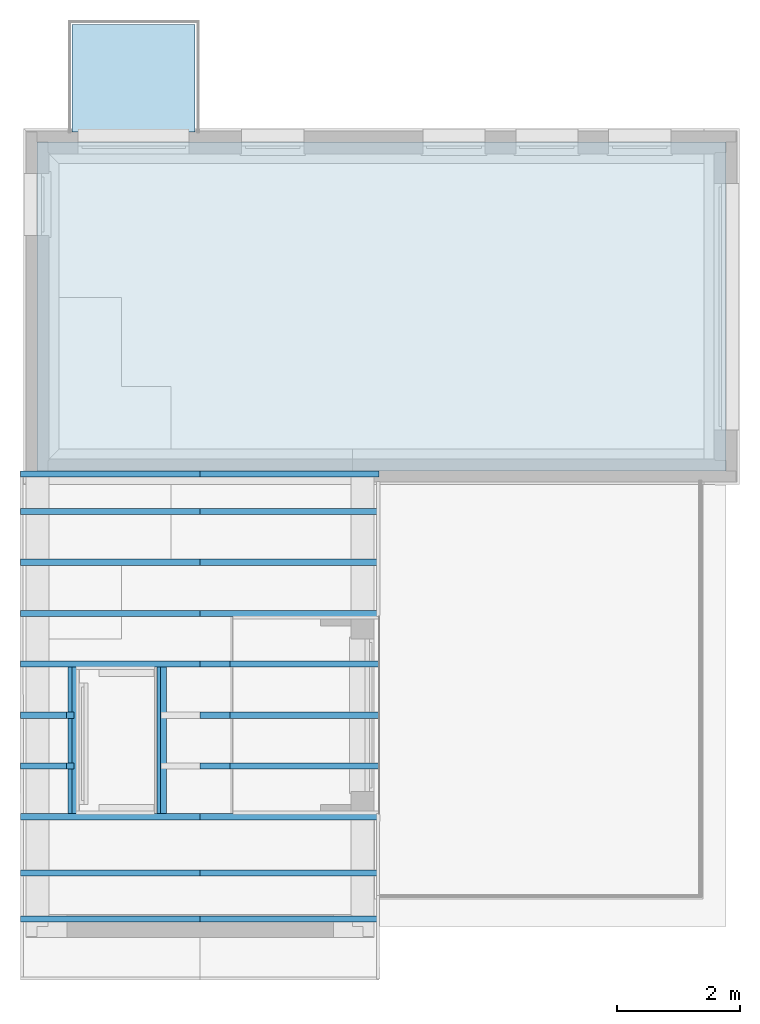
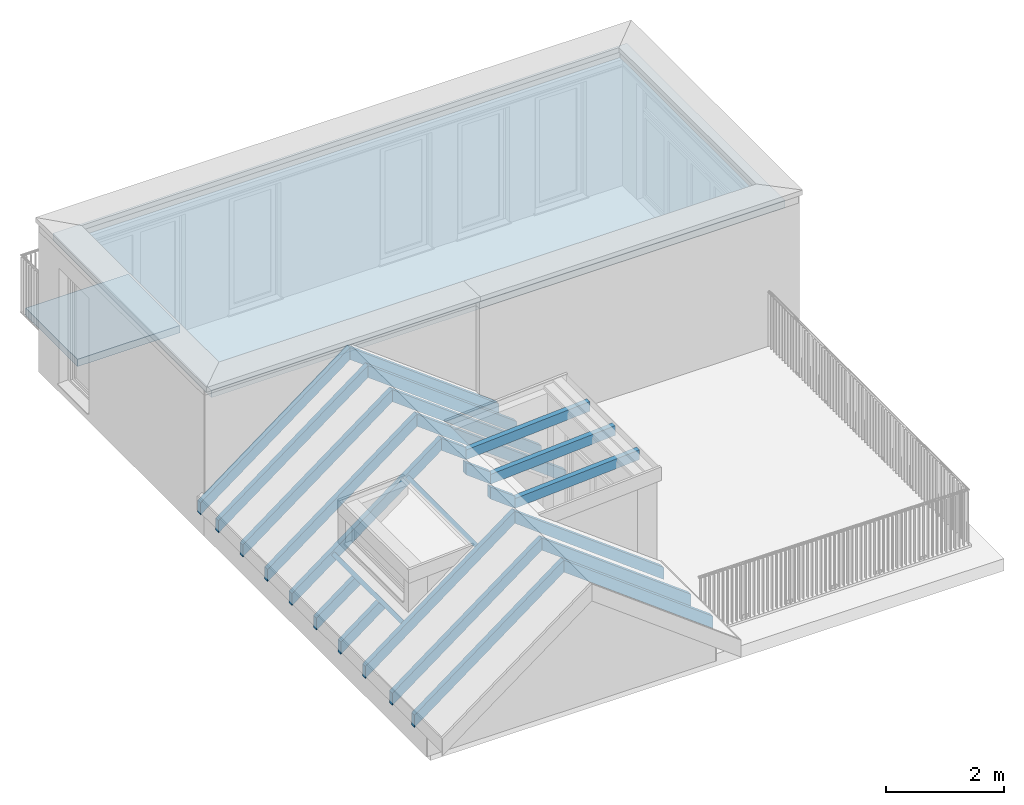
# One storey, part 1 of 15: 25 beams, 2 slabs.
"""IFC4 building model written with IfcOpenShell, lengths in metres."""

from ifc_helpers import new_model, entity, si_unit, converted_unit, derived_unit, direction, frame, origin_with_axes, place, context, subcontext, project, spatial, triangles, source, transform, mapped, material, type_object, element, save


model = new_model("IFC4")

# Units and contexts
model_context = context("Model", 3, precision=1e-05, world=origin_with_axes(), true_north=direction((-0.526213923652, 0.850352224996)))
body_context = subcontext(model_context, "Body", "Model", "MODEL_VIEW")
ifc_project = project(units=[si_unit("LENGTHUNIT", "METRE"), si_unit("AREAUNIT", "SQUARE_METRE"), si_unit("VOLUMEUNIT", "CUBIC_METRE"), converted_unit("PLANEANGLEUNIT", "DEGREE", entity("IfcPlaneAngleMeasure", 0.0174532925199), si_unit("PLANEANGLEUNIT", "RADIAN"), dimensions=[0, 0, 0, 0, 0, 0, 0]), si_unit("SOLIDANGLEUNIT", "STERADIAN"), converted_unit("TIMEUNIT", "Year", entity("IfcTimeMeasure", 31556926.0), si_unit("TIMEUNIT", "SECOND"), dimensions=[0, 0, 1, 0, 0, 0, 0]), si_unit("MASSUNIT", "GRAM", prefix="KILO"), si_unit("THERMODYNAMICTEMPERATUREUNIT", "DEGREE_CELSIUS"), si_unit("LUMINOUSINTENSITYUNIT", "LUMEN"), si_unit("ENERGYUNIT", "JOULE", prefix="MEGA"), derived_unit("THERMALCONDUCTANCEUNIT", [(si_unit("POWERUNIT", "WATT"), 1), (si_unit("LENGTHUNIT", "METRE"), -1), (si_unit("THERMODYNAMICTEMPERATUREUNIT", "KELVIN"), -1)]), derived_unit("SPECIFICHEATCAPACITYUNIT", [(si_unit("ENERGYUNIT", "JOULE"), 1), (si_unit("MASSUNIT", "GRAM", prefix="KILO"), -1), (si_unit("THERMODYNAMICTEMPERATUREUNIT", "KELVIN"), -1)]), derived_unit("MASSDENSITYUNIT", [(si_unit("MASSUNIT", "GRAM", prefix="KILO"), 1), (si_unit("VOLUMEUNIT", "CUBIC_METRE"), -1)])], contexts=[model_context])

# Site, building, storey, space
site_placement = place(None, origin_with_axes())
site = spatial("IfcSite", under=ifc_project, at=site_placement, Name="Gelände", CompositionType="ELEMENT")
building_placement = place(site_placement, origin_with_axes())
building = spatial("IfcBuilding", under=site, at=building_placement, Name="Haus vom Nikolaus", CompositionType="ELEMENT")
storey_placement = place(building_placement, frame((0.0, 0.0, 3.75), z_axis=(0.0, 0.0, 1.0), x_axis=(1.0, 0.0, 0.0)))
storey = spatial("IfcBuildingStorey", under=building, at=storey_placement, Name="1. OG", CompositionType="ELEMENT", Elevation=3.75)
space_1_placement = place(storey_placement, frame((-0.115002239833, 5.36483188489, 0.0), z_axis=(0.0, 0.0, 1.0), x_axis=(-1.0, 0.0, 0.0)))
space_1 = spatial("IfcSpace", under=storey, at=space_1_placement, Name="OG", CompositionType="ELEMENT")

# Beams
ifc_material_1 = material(Name="Holz, Bauholz")
beam_type_1 = type_object("IfcBeamType", Name="Sparren mit Dachkantenabschluss RM 22", PredefinedType="NOTDEFINED")
shared_shape_1 = source(origin_with_axes(), body_context, "Body", "Tessellation", [
    triangles([(2.90999999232, 0.05, 2.42837971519), (0.0, -0.05, 0.249836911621), (2.90999999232, -0.05, 2.42837971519), (0.0, 0.05, 0.249836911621), (2.90999999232, -0.05, 2.17854280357), (0.0, -0.05, 0.0), (2.90999999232, 0.05, 2.17854280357), (0.0, 0.05, 0.0)], [[1, 2, 3], [1, 4, 2], [2, 5, 3], [5, 2, 6], [5, 1, 3], [5, 7, 1], [7, 4, 1], [7, 8, 4], [6, 4, 8], [6, 2, 4], [5, 8, 7], [5, 6, 8]], closed=True),
])
for number, where, z_axis, x_axis in (
    (1, (-5.74039601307, 4.42999982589, 0.488392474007), (0.0, 0.0, 1.0), (1.0, 0.0, 0.0)),
    (2, (-5.74039601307, 5.17807128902, 0.488392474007), (0.0, 0.0, 1.0), (1.0, 0.0, 0.0)),
    (3, (-5.74039601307, -1.44034134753, 0.488392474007), (0.0, 0.0, 1.0), (1.0, 0.0, 0.0)),
    (4, (-5.74039601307, -2.05000010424, 0.488392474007), (0.0, 0.0, 1.0), (1.0, 0.0, 0.0)),
    (5, (-5.74039597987, -0.619507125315, 0.488392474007), (0.0, 0.0, 1.0), (1.0, 0.0, 0.0)),
    (6, (-5.74039597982, 0.217152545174, 0.488392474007), (0.0, 0.0, 1.0), (1.0, 0.0, 0.0)),
    (7, (-5.74039604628, 3.51714901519, 0.488448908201), (0.0, 0.0, 1.0), (1.0, 0.0, 0.0)),
):
    element("IfcBeam", number, at=place(space_1_placement, frame(where, z_axis=z_axis, x_axis=x_axis)), inside=space_1, type_object=beam_type_1, material=ifc_material_1, Name="Sparren", ObjectType="Sparren mit Dachkantenabschluss RM 22", context=body_context, shape_type="MappedRepresentation", body=[
        mapped(shared_shape_1, transform((0.0, 0.0, 0.0))),
    ])
beam_1_placement = place(space_1_placement, frame((-3.31280798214, 1.03714906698, 2.30582777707), z_axis=(0.0, 0.0, 1.0), x_axis=(-1.0, 0.0, 0.0)))
element("IfcBeam", 8, at=beam_1_placement, inside=space_1, type_object=beam_type_1, material=ifc_material_1, Name="Sparren", ObjectType="Sparren mit Dachkantenabschluss RM 22", context=body_context, shape_type="Tessellation", body=[
    triangles([(2.41505660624, 0.05, 0.355741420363), (0.0, -0.05, 0.200413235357), (2.41505660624, -0.05, 0.355741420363), (0.0, 0.05, 0.200413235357), (2.41505660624, -0.05, 0.155328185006), (0.0, -0.05, 0.0), (2.41505660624, 0.05, 0.155328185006), (0.0, 0.05, 0.0)], [[1, 2, 3], [1, 4, 2], [2, 5, 3], [5, 2, 6], [5, 1, 3], [5, 7, 1], [7, 4, 1], [7, 8, 4], [6, 4, 8], [6, 2, 4], [5, 8, 7], [5, 6, 8]], closed=True),
])
beam_2_placement = place(space_1_placement, frame((-0.0203959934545, 1.86714904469, 0.563044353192), z_axis=(0.0, 0.0, 1.0), x_axis=(-1.0, 0.0, 0.0)))
element("IfcBeam", 9, at=beam_2_placement, inside=space_1, type_object=beam_type_1, material=ifc_material_1, Name="Sparren", ObjectType="Sparren mit Dachkantenabschluss RM 22", context=body_context, shape_type="Tessellation", body=[
    triangles([(0.638774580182, 0.05, 0.728118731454), (-0.106382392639, -0.05, 0.170196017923), (0.638774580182, -0.05, 0.728118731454), (-0.106382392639, 0.05, 0.170196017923), (0.758644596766, -0.05, 0.56802132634), (-0.106382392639, -0.05, -0.079651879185), (0.758644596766, 0.05, 0.56802132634), (-0.106382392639, 0.05, -0.079651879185)], [[1, 2, 3], [1, 4, 2], [2, 5, 3], [5, 2, 6], [5, 1, 3], [5, 7, 1], [7, 4, 1], [7, 8, 4], [6, 4, 8], [6, 2, 4], [5, 8, 7], [5, 6, 8]], closed=True),
])
beam_3_placement = place(space_1_placement, frame((-0.0203959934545, 2.69058290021, 0.563044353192), z_axis=(0.0, 0.0, 1.0), x_axis=(-1.0, 0.0, 0.0)))
element("IfcBeam", 10, at=beam_3_placement, inside=space_1, type_object=beam_type_1, material=ifc_material_1, Name="Sparren", ObjectType="Sparren mit Dachkantenabschluss RM 22", context=body_context, shape_type="Tessellation", body=[
    triangles([(0.637950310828, 0.05, 0.727501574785), (-0.106382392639, -0.05, 0.170196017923), (0.637950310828, -0.05, 0.727501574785), (-0.106382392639, 0.05, 0.170196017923), (0.757820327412, -0.05, 0.567404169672), (-0.106382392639, -0.05, -0.079651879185), (0.757820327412, 0.05, 0.567404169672), (-0.106382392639, 0.05, -0.079651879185)], [[1, 2, 3], [1, 4, 2], [2, 5, 3], [5, 2, 6], [5, 1, 3], [5, 7, 1], [7, 4, 1], [7, 8, 4], [6, 4, 8], [6, 2, 4], [5, 8, 7], [5, 6, 8]], closed=True),
])
shared_shape_2 = source(origin_with_axes(), body_context, "Body", "Tessellation", [
    triangles([(2.8100000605, 0.05, 2.3537842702), (-0.106382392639, -0.05, 0.170196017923), (2.8100000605, -0.05, 2.3537842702), (-0.106382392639, 0.05, 0.170196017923), (2.8100000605, -0.05, 2.10393637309), (-0.106382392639, -0.05, -0.079651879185), (2.8100000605, 0.05, 2.10393637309), (-0.106382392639, 0.05, -0.079651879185)], [[1, 2, 3], [1, 4, 2], [2, 5, 3], [5, 2, 6], [5, 1, 3], [5, 7, 1], [7, 4, 1], [7, 8, 4], [6, 4, 8], [6, 2, 4], [5, 8, 7], [5, 6, 8]], closed=True),
])
for number, where, z_axis, x_axis in (
    (11, (-0.0203959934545, 5.17807128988, 0.563044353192), (0.0, 0.0, 1.0), (-1.0, 0.0, 0.0)),
    (12, (-0.0203959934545, -1.44034134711, 0.563044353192), (0.0, 0.0, 1.0), (-1.0, 0.0, 0.0)),
    (13, (-0.0203959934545, -2.05000010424, 0.563044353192), (0.0, 0.0, 1.0), (-1.0, 0.0, 0.0)),
    (14, (-0.0203959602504, -0.619507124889, 0.563044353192), (0.0, 0.0, 1.0), (-1.0, 0.0, 0.0)),
    (15, (-0.0203959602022, 0.217152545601, 0.563044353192), (0.0, 0.0, 1.0), (-1.0, 0.0, 0.0)),
    (16, (-0.0203959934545, 1.03714906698, 0.563044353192), (0.0, 0.0, 1.0), (-1.0, 0.0, 0.0)),
    (17, (-0.0203959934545, 3.51714901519, 0.563044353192), (0.0, 0.0, 1.0), (-1.0, 0.0, 0.0)),
    (18, (-0.0203959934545, 4.42999982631, 0.563044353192), (0.0, 0.0, 1.0), (-1.0, 0.0, 0.0)),
):
    element("IfcBeam", number, at=place(space_1_placement, frame(where, z_axis=z_axis, x_axis=x_axis)), inside=space_1, type_object=beam_type_1, material=ifc_material_1, Name="Sparren", ObjectType="Sparren mit Dachkantenabschluss RM 22", context=body_context, shape_type="MappedRepresentation", body=[
        mapped(shared_shape_2, transform((0.0, 0.0, 0.0))),
    ])
shared_shape_3 = source(origin_with_axes(), body_context, "Body", "Tessellation", [
    triangles([(0.482423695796, 0.05, 0.610998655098), (0.0, -0.05, 0.249836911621), (0.482423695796, -0.05, 0.610998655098), (0.0, 0.05, 0.249836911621), (0.482423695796, -0.05, 0.361161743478), (0.0, -0.05, 0.0), (0.482423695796, 0.05, 0.361161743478), (0.0, 0.05, 0.0)], [[1, 2, 3], [1, 4, 2], [2, 5, 3], [5, 2, 6], [5, 1, 3], [5, 7, 1], [7, 4, 1], [7, 8, 4], [6, 4, 8], [6, 2, 4], [5, 8, 7], [5, 6, 8]], closed=True),
])
for number, where, z_axis, x_axis in (
    (19, (-3.31280798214, 1.03714906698, 2.30582777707), (0.0, 0.0, 1.0), (1.0, 0.0, 0.0)),
    (20, (-3.31281971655, 2.69058289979, 2.30574800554), (0.0, 0.0, 1.0), (1.0, 0.0, 0.0)),
    (21, (-3.31281968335, 1.86714904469, 2.30577619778), (0.0, 0.0, 1.0), (1.0, 0.0, 0.0)),
):
    element("IfcBeam", number, at=place(space_1_placement, frame(where, z_axis=z_axis, x_axis=x_axis)), inside=space_1, type_object=beam_type_1, material=ifc_material_1, Name="Sparren", ObjectType="Sparren mit Dachkantenabschluss RM 22", context=body_context, shape_type="MappedRepresentation", body=[
        mapped(shared_shape_3, transform((0.0, 0.0, 0.0))),
    ])
beam_type_2 = type_object("IfcBeamType", Name="Wechsel RM 22", PredefinedType="NOTDEFINED")
beam_4_placement = place(space_1_placement, frame((0.325721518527, 2.27714904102, 0.278126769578), z_axis=(0.0, 0.0, 1.0), x_axis=(-1.0, 0.0, 0.0)))
element("IfcBeam", 22, at=beam_4_placement, inside=space_1, type_object=beam_type_2, material=ifc_material_1, Name="Fette", ObjectType="Wechsel RM 22", context=body_context, shape_type="Tessellation", body=[
    triangles([(2.5164975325, -1.1899999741, 2.10904480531), (2.54835458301, -1.1899999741, 1.93301887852), (2.61239354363, -1.1899999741, 1.98096688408), (2.45245857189, -1.1899999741, 2.06109679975), (2.61239354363, 1.1899999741, 1.98096688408), (2.54835458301, 1.1899999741, 1.93301887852), (2.5164975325, 1.1899999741, 2.10904480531), (2.45245857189, 1.1899999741, 2.06109679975)], [[1, 2, 3], [1, 4, 2], [5, 2, 6], [5, 3, 2], [7, 3, 5], [7, 1, 3], [7, 4, 1], [7, 8, 4], [4, 6, 2], [4, 8, 6], [7, 6, 8], [6, 7, 5]], closed=True),
])
beam_5_placement = place(space_1_placement, frame((-0.0181568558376, 2.27714904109, 0.536383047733), z_axis=(0.0, 0.0, 1.0), x_axis=(-1.0, 0.0, 0.0)))
element("IfcBeam", 23, at=beam_5_placement, inside=space_1, type_object=beam_type_2, material=ifc_material_1, Name="Fette", ObjectType="Wechsel RM 22", context=body_context, shape_type="Tessellation", body=[
    triangles([(0.665305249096, -1.1899999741, 0.722998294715), (0.825240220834, -1.1899999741, 0.642868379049), (0.729344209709, -1.1899999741, 0.770946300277), (0.76120126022, -1.1899999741, 0.594920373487), (0.825240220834, 1.1899999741, 0.642868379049), (0.76120126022, 1.1899999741, 0.594920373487), (0.729344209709, 1.1899999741, 0.770946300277), (0.665305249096, 1.1899999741, 0.722998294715)], [[1, 2, 3], [2, 1, 4], [5, 4, 6], [5, 2, 4], [7, 2, 5], [7, 3, 2], [7, 1, 3], [7, 8, 1], [1, 6, 4], [1, 8, 6], [8, 5, 6], [8, 7, 5]], closed=True),
])
shared_shape_4 = source(origin_with_axes(), body_context, "Body", "Tessellation", [
    triangles([(2.43113579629, 0.05, 0.3567755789), (0.0, -0.05, 0.200413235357), (2.43113579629, -0.05, 0.3567755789), (0.0, 0.05, 0.200413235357), (2.43113579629, -0.05, 0.156362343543), (0.0, -0.05, 0.0), (2.43113579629, 0.05, 0.156362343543), (0.0, 0.05, 0.0)], [[1, 2, 3], [1, 4, 2], [2, 5, 3], [5, 2, 6], [5, 1, 3], [5, 7, 1], [7, 4, 1], [7, 8, 4], [6, 4, 8], [6, 2, 4], [5, 8, 7], [5, 6, 8]], closed=True),
])
for number, where, z_axis, x_axis in (
    (24, (-3.31281971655, 2.69058289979, 2.30574800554), (0.0, 0.0, 1.0), (-1.0, 0.0, 0.0)),
    (25, (-3.31281968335, 1.86714904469, 2.30577619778), (0.0, 0.0, 1.0), (-1.0, 0.0, 0.0)),
):
    element("IfcBeam", number, at=place(space_1_placement, frame(where, z_axis=z_axis, x_axis=x_axis)), inside=space_1, type_object=beam_type_1, material=ifc_material_1, Name="Sparren", ObjectType="Sparren mit Dachkantenabschluss RM 22", context=body_context, shape_type="MappedRepresentation", body=[
        mapped(shared_shape_4, transform((0.0, 0.0, 0.0))),
    ])

# Slab
ifc_material_2 = material(Name="Beton, Stahlbeton C20/25")
slab_type_1 = type_object("IfcSlabType", Name="Beton, Stahlbeton C20/25 150", PredefinedType="FLOOR")
slab_1_placement = place(space_1_placement, frame((-0.1799998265, -7.45000017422, 2.75), z_axis=(0.0, 0.0, 1.0), x_axis=(-1.0, 0.0, 0.0)))
element("IfcSlab", 26, at=slab_1_placement, inside=space_1, type_object=slab_type_1, material=ifc_material_2, Name="Decke-005", PredefinedType="FLOOR", context=body_context, shape_type="Tessellation", body=[
    triangles([(0.0, 0.0, 0.15), (11.1950000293, -5.34999997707, 0.150000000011), (11.1950000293, 8.25822255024e-09, 0.150000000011), (0.0, -5.35000007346, 0.15), (11.1950000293, -5.34999997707, 0.0), (0.0, -5.35000007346, 0.0), (11.1950000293, 8.25822255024e-09, 0.0), (0.0, 0.0, 0.0)], [[1, 2, 3], [2, 1, 4], [4, 5, 2], [5, 4, 6], [3, 5, 7], [3, 2, 5], [7, 1, 3], [7, 8, 1], [8, 4, 1], [8, 6, 4], [5, 8, 7], [5, 6, 8]], closed=True),
])

# Space
space_2_placement = place(storey_placement, frame((0.564997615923, 14.7948334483, -0.15), z_axis=(0.0, 0.0, 1.0), x_axis=(0.0, -1.0, 0.0)))
space_2 = spatial("IfcSpace", under=storey, at=space_2_placement, Name="R-023", CompositionType="ELEMENT")

# Slab
ifc_material_3 = material(Name="Beton, Stahlbeton Fertigteil")
slab_type_2 = type_object("IfcSlabType", Name="Beton, Stahlbeton Fertigteil 150", PredefinedType="FLOOR")
slab_2_placement = place(space_2_placement, frame((1.82000007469, 0.07, 0.0), z_axis=(0.0, 0.0, 1.0), x_axis=(0.0, 1.0, 0.0)))
element("IfcSlab", 27, at=slab_2_placement, inside=space_2, type_object=slab_type_2, material=ifc_material_3, Name="Decke-017", PredefinedType="FLOOR", context=body_context, shape_type="Tessellation", body=[
    triangles([(0.0, 0.0, 0.0), (2.0, 0.0, 0.15), (0.0, 0.0, 0.15), (2.0, 0.0, 0.0), (2.0, 1.75000007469, 0.15), (0.0, 1.75000007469, 0.15), (0.0, 1.75000007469, 0.0), (2.0, 1.75000007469, 0.0)], [[1, 2, 3], [1, 4, 2], [3, 5, 6], [3, 2, 5], [7, 3, 6], [7, 1, 3], [1, 8, 4], [1, 7, 8], [4, 5, 2], [4, 8, 5], [8, 6, 5], [8, 7, 6]], closed=True),
])

save(model, "model.ifc")
